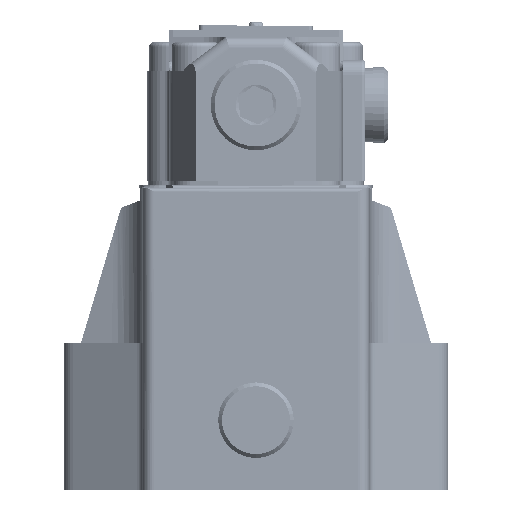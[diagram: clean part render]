
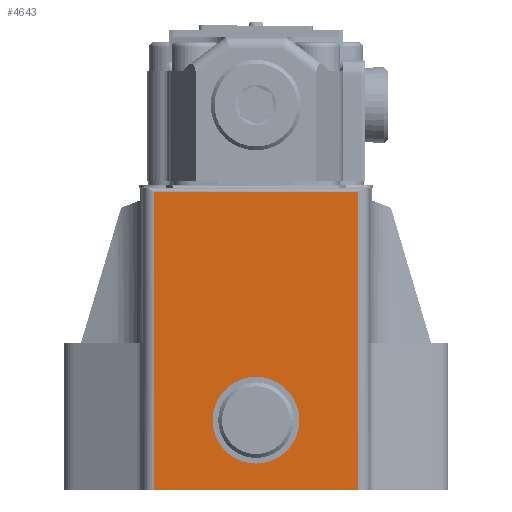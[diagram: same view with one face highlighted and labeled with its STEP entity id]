
A CAD part, left-side view. The second image highlights one B-rep face of the part: STEP entity #4643.
In plain terms, the highlighted planar face has unit normal (-1, 0, 0).
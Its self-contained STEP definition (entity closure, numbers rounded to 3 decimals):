
#1299=PLANE('',#18257);
#2287=LINE('',#61312,#3211);
#2288=LINE('',#61315,#3212);
#2289=LINE('',#61317,#3213);
#2290=LINE('',#61319,#3214);
#3211=VECTOR('',#21372,1.);
#3212=VECTOR('',#21373,1.);
#3213=VECTOR('',#21374,1.);
#3214=VECTOR('',#21375,1.);
#3785=FACE_BOUND('',#6596,.T.);
#3786=FACE_BOUND('',#6597,.T.);
#4643=ADVANCED_FACE('',(#3785,#3786),#1299,.F.);
#6596=EDGE_LOOP('',(#11068,#11069,#11070,#11071));
#6597=EDGE_LOOP('',(#11072));
#7143=CIRCLE('',#18256,11.5);
#11068=ORIENTED_EDGE('',*,*,#15692,.F.);
#11069=ORIENTED_EDGE('',*,*,#15693,.F.);
#11070=ORIENTED_EDGE('',*,*,#15694,.F.);
#11071=ORIENTED_EDGE('',*,*,#15695,.F.);
#11072=ORIENTED_EDGE('',*,*,#15696,.F.);
#13441=VERTEX_POINT('',#61313);
#13442=VERTEX_POINT('',#61314);
#13443=VERTEX_POINT('',#61316);
#13444=VERTEX_POINT('',#61318);
#13445=VERTEX_POINT('',#61321);
#15692=EDGE_CURVE('',#13441,#13442,#2287,.T.);
#15693=EDGE_CURVE('',#13443,#13441,#2288,.T.);
#15694=EDGE_CURVE('',#13444,#13443,#2289,.T.);
#15695=EDGE_CURVE('',#13442,#13444,#2290,.T.);
#15696=EDGE_CURVE('',#13445,#13445,#7143,.T.);
#18256=AXIS2_PLACEMENT_3D('',#61320,#21376,#21377);
#18257=AXIS2_PLACEMENT_3D('',#61322,#21378,#21379);
#21372=DIRECTION('',(0.,-1.,0.));
#21373=DIRECTION('',(0.,0.,1.));
#21374=DIRECTION('',(0.,1.,0.));
#21375=DIRECTION('',(0.,0.,-1.));
#21376=DIRECTION('',(-1.,0.,0.));
#21377=DIRECTION('',(0.,0.,1.));
#21378=DIRECTION('',(1.,0.,0.));
#21379=DIRECTION('',(0.,0.,1.));
#61312=CARTESIAN_POINT('',(-743.26,12.061,87.));
#61313=CARTESIAN_POINT('',(-743.26,-29.932,87.));
#61314=CARTESIAN_POINT('',(-743.26,-83.932,87.));
#61315=CARTESIAN_POINT('',(-743.26,-29.932,8.));
#61316=CARTESIAN_POINT('',(-743.26,-29.932,8.));
#61317=CARTESIAN_POINT('',(-743.26,-29.932,8.));
#61318=CARTESIAN_POINT('',(-743.26,-83.932,8.));
#61319=CARTESIAN_POINT('',(-743.26,-83.932,8.));
#61320=CARTESIAN_POINT('',(-743.26,-56.932,26.5));
#61321=CARTESIAN_POINT('',(-743.26,-56.932,38.));
#61322=CARTESIAN_POINT('',(-743.26,-29.932,8.));
